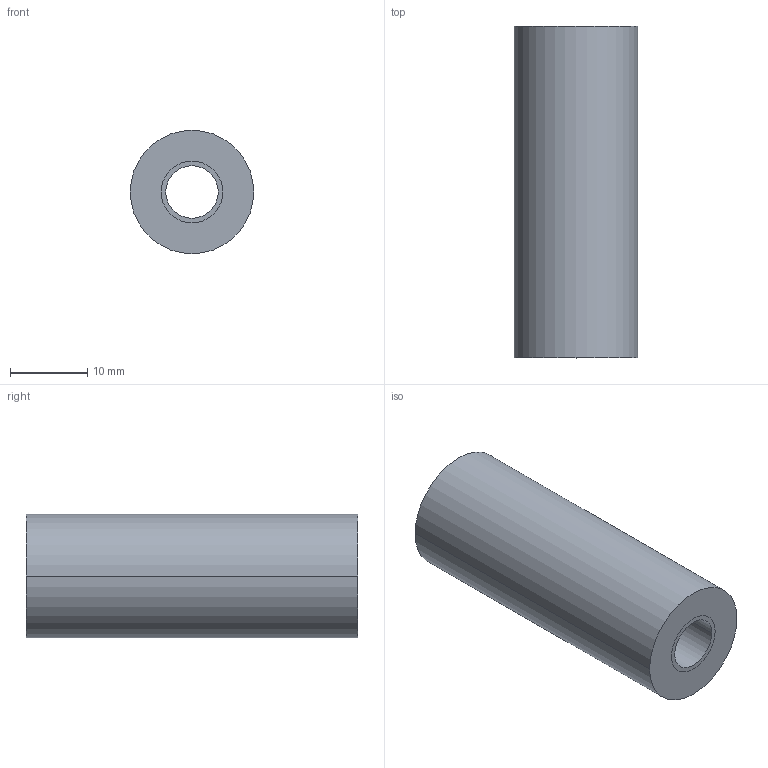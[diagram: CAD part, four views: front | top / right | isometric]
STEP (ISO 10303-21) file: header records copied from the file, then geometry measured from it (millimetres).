
FILE_DESCRIPTION((''),'2;1');
FILE_NAME('GIS450P_2','2002-12-27T',('Lipro doo'),('Lipro d.o.o.'),'PRO/ENGINEER BY PARAMETRIC TECHNOLOGY CORPORATION, 2001150','PRO/ENGINEER BY PARAMETRIC TECHNOLOGY CORPORATION, 2001150','');
FILE_SCHEMA(('CONFIG_CONTROL_DESIGN'));
Length unit declared in the file: millimetre
Products named in the file (1): GIS450P_2
Bounding box: 16 x 43 x 16 mm (x, y, z)
Volume: 7075.7 mm3; surface area: 4474.2 mm2
Topology: 1 solids, 2 shells, 10 faces, 22 edges, 14 vertices
Faces by surface type: cylinder 6, plane 2, cone 2
Entity records: 332 total; most frequent: DIRECTION 58, CARTESIAN_POINT 47, ORIENTED_EDGE 40, AXIS2_PLACEMENT_3D 25, EDGE_CURVE 22, VERTEX_POINT 14, CIRCLE 14, EDGE_LOOP 12
